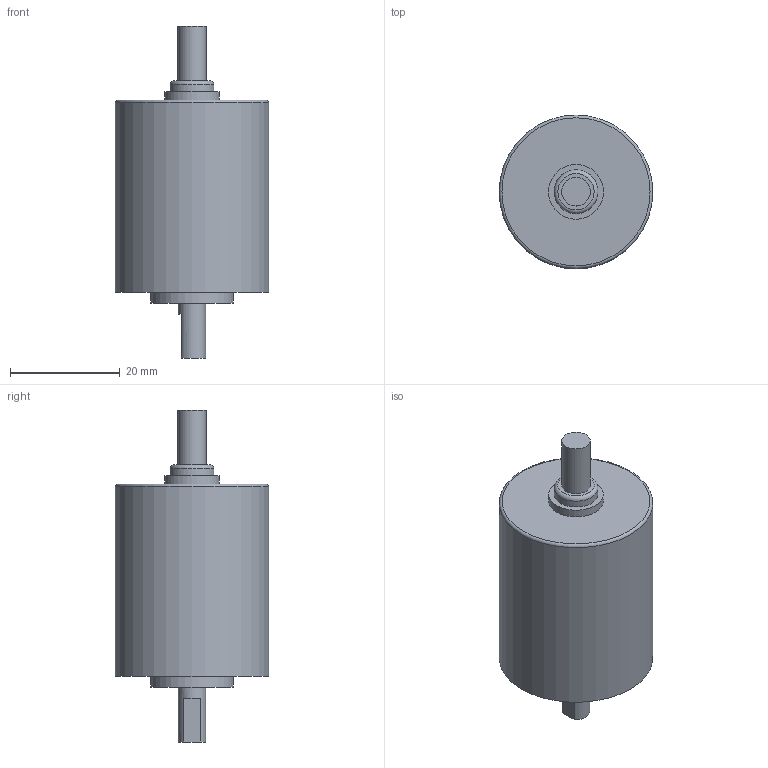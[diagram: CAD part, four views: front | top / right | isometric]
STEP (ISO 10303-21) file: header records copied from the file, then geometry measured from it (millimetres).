
FILE_DESCRIPTION(('OEZ-2MD'),'2;1');
FILE_NAME('C:\Users\user\Documents\Inventor\配布用外径データ\配布用STEP\OEZ-2MD.stp','2019-05-09T09:37:48',('NEMICON Corp.'),('NEMICON Corp.'),'Autodesk Inventor 2011','Autodesk Inventor 2011','');
FILE_SCHEMA(('AUTOMOTIVE_DESIGN { 1 0 10303 214 1 1 1 1 }'));
Length unit declared in the file: millimetre
Products named in the file (1): OEZ-2MD
Bounding box: 28 x 28 x 60.5 mm (x, y, z)
Volume: 22466.6 mm3; surface area: 4872.7 mm2
Topology: 1 solids, 1 shells, 21 faces, 38 edges, 24 vertices
Faces by surface type: plane 9, cylinder 8, torus 2, cone 2
Full cylindrical faces by diameter (mm): 2.459 x2, 5 x1, 5.2 x1, 8 x1, 10 x1, 15 x1, 28 x1
Entity records: 466 total; most frequent: DIRECTION 86, CARTESIAN_POINT 66, ORIENTED_EDGE 46, AXIS2_PLACEMENT_3D 41, EDGE_LOOP 38, EDGE_CURVE 23, VERTEX_POINT 21, FACE_OUTER_BOUND 21
